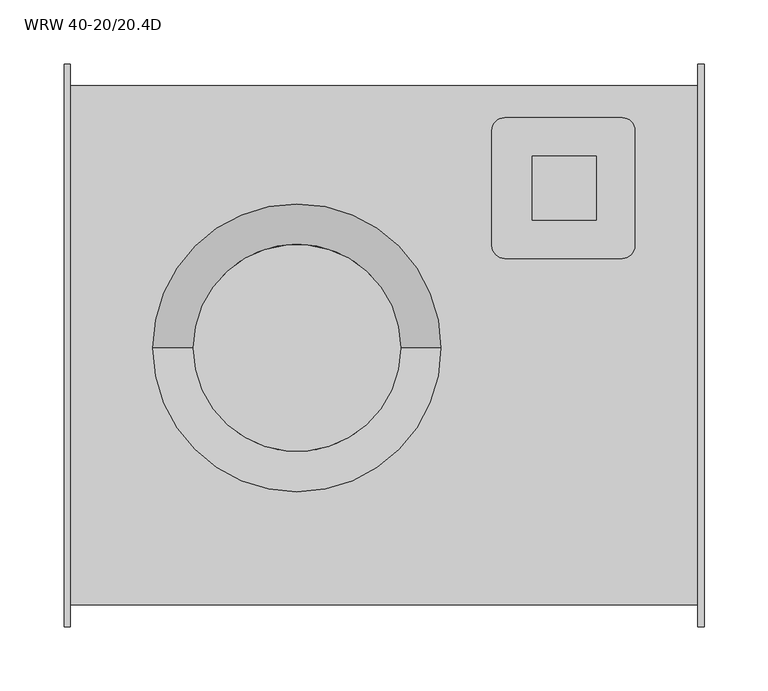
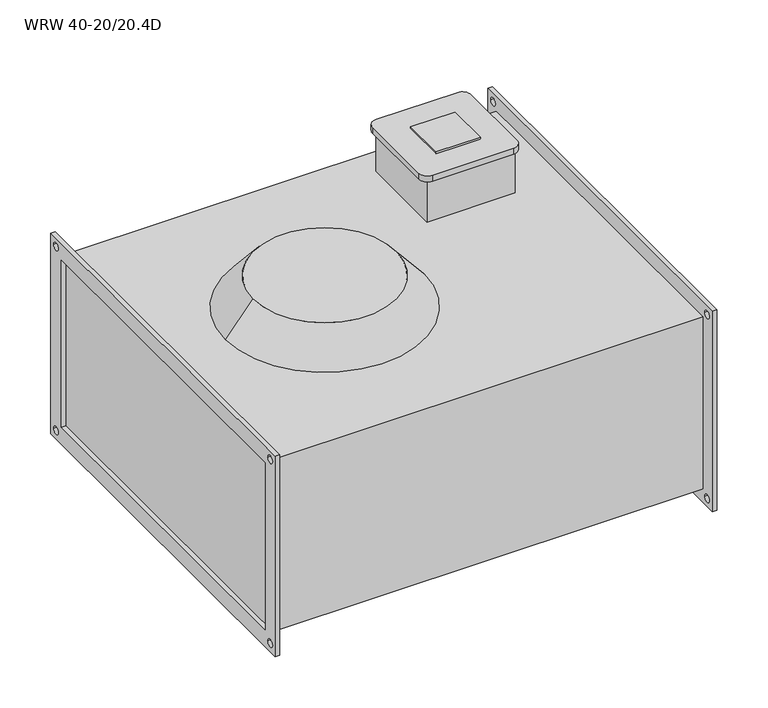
"""IFC4 building model written with IfcOpenShell, lengths in millimetres: proxy geometry, KORF_Вентилятор_WRW : WRW 40-20/20.4D."""

from ifc_helpers import new_model, si_unit, point, frame, frame_2d, origin, place, context, project, spatial, polyline, circle_curve, trimmed, segment, composite_curve, outline, extrude, source, transform, mapped, element, save
from ifc_brep_helpers import plane_surface, cylinder_surface, revolved_surface, advanced_brep


def wrw_40_20_20_4d_4732bad7(model_context):
    return source(origin(), model_context, "Body", "SolidModel", [
        extrude(outline(polyline([(366.0, 98.0), (366.0, 148.0), (416.0, 148.0), (416.0, 98.0), (366.0, 98.0)])), frame((0.0, 0.0, 161.0), z_axis=(0.0, 0.0, 1.0), x_axis=(1.0, 0.0, 0.0)), (0.0, 0.0, 1.0), 2.0),
        advanced_brep(
        [(436.0, 178.0, 161.0), (344.318163, 178.0, 161.0), (334.318163, 168.0, 161.0), (334.318163, 78.0, 161.0), (344.318163, 68.0, 161.0), (436.0, 68.0, 161.0), (446.0, 78.0, 161.0), (446.0, 168.0, 161.0), (436.0, 178.0, 154.0), (446.0, 168.0, 154.0), (446.0, 78.0, 154.0), (436.0, 68.0, 154.0), (344.318163, 68.0, 154.0), (334.318163, 78.0, 154.0), (334.318163, 168.0, 154.0), (344.318163, 178.0, 154.0), (441.0, 173.0, 154.0), (341.0, 173.0, 154.0), (341.0, 73.0, 154.0), (441.0, 73.0, 154.0), (441.0, 173.0, 103.0), (441.0, 73.0, 103.0), (341.0, 73.0, 103.0), (341.0, 173.0, 103.0)],
        [
            (0, 1),
            (1, 2, circle_curve(frame((344.318163, 168.0, 161.0), z_axis=(0.0, 0.0, 1.0), x_axis=(1.0, 0.0, 0.0)), 10.0)),
            (2, 3),
            (3, 4, circle_curve(frame((344.318163, 78.0, 161.0), z_axis=(0.0, 0.0, 1.0), x_axis=(1.0, 0.0, 0.0)), 10.0)),
            (4, 5),
            (5, 6, circle_curve(frame((436.0, 78.0, 161.0), z_axis=(0.0, 0.0, 1.0), x_axis=(1.0, 0.0, 0.0)), 10.0)),
            (6, 7),
            (7, 0, circle_curve(frame((436.0, 168.0, 161.0), z_axis=(0.0, 0.0, 1.0), x_axis=(1.0, 0.0, 0.0)), 10.0)),
            (8, 9, circle_curve(frame((436.0, 168.0, 154.0), z_axis=(0.0, 0.0, -1.0), x_axis=(1.0, 0.0, 0.0)), 10.0)),
            (9, 10),
            (10, 11, circle_curve(frame((436.0, 78.0, 154.0), z_axis=(0.0, 0.0, -1.0), x_axis=(1.0, 0.0, 0.0)), 10.0)),
            (11, 12),
            (12, 13, circle_curve(frame((344.318163, 78.0, 154.0), z_axis=(0.0, 0.0, -1.0), x_axis=(1.0, 0.0, 0.0)), 10.0)),
            (13, 14),
            (14, 15, circle_curve(frame((344.318163, 168.0, 154.0), z_axis=(0.0, 0.0, -1.0), x_axis=(1.0, 0.0, 0.0)), 10.0)),
            (15, 8),
            (16, 17),
            (17, 18),
            (18, 19),
            (19, 16),
            (0, 8),
            (15, 1),
            (14, 2),
            (13, 3),
            (12, 4),
            (11, 5),
            (10, 6),
            (9, 7),
            (20, 21),
            (21, 22),
            (22, 23),
            (23, 20),
            (23, 17),
            (16, 20),
            (22, 18),
            (21, 19),
        ],
        [
            plane_surface(frame((344.318163, 178.0, 161.0), z_axis=(0.0, 0.0, 1.0), x_axis=(-1.0, 0.0, 0.0))),
            plane_surface(frame((344.318163, 178.0, 154.0), z_axis=(0.0, 0.0, -1.0), x_axis=(1.0, 0.0, 0.0))),
            plane_surface(frame((436.0, 178.0, 161.0), z_axis=(0.0, 1.0, 0.0), x_axis=(0.0, 0.0, -1.0))),
            cylinder_surface(frame((344.318163, 168.0, 154.0), z_axis=(0.0, 0.0, 1.0), x_axis=(1.0, 0.0, 0.0)), 10.0),
            plane_surface(frame((334.318163, 168.0, 161.0), z_axis=(-1.0, 0.0, 0.0), x_axis=(0.0, 0.0, -1.0))),
            cylinder_surface(frame((344.318163, 78.0, 154.0), z_axis=(0.0, 0.0, 1.0), x_axis=(1.0, 0.0, 0.0)), 10.0),
            plane_surface(frame((344.318163, 68.0, 161.0), z_axis=(0.0, -1.0, 0.0), x_axis=(0.0, 0.0, -1.0))),
            cylinder_surface(frame((436.0, 78.0, 154.0), z_axis=(0.0, 0.0, 1.0), x_axis=(1.0, 0.0, 0.0)), 10.0),
            plane_surface(frame((446.0, 78.0, 161.0), z_axis=(1.0, 0.0, 0.0), x_axis=(0.0, 0.0, -1.0))),
            cylinder_surface(frame((436.0, 168.0, 154.0), z_axis=(0.0, 0.0, 1.0), x_axis=(1.0, 0.0, 0.0)), 10.0),
            plane_surface(frame((341.0, 173.0, 103.0), z_axis=(0.0, 0.0, -1.0), x_axis=(1.0, 0.0, 0.0))),
            plane_surface(frame((441.0, 173.0, 161.0), z_axis=(0.0, 1.0, 0.0), x_axis=(0.0, 0.0, -1.0))),
            plane_surface(frame((341.0, 173.0, 161.0), z_axis=(-1.0, 0.0, 0.0), x_axis=(0.0, 0.0, -1.0))),
            plane_surface(frame((341.0, 73.0, 161.0), z_axis=(0.0, -1.0, 0.0), x_axis=(0.0, 0.0, -1.0))),
            plane_surface(frame((441.0, 73.0, 161.0), z_axis=(1.0, 0.0, 0.0), x_axis=(0.0, 0.0, -1.0))),
        ],
        [
            (0, [[1, 2, 3, 4, 5, 6, 7, 8]]),
            (1, [[9, 10, 11, 12, 13, 14, 15, 16], [17, 18, 19, 20]]),
            (2, [[-1, 21, -16, 22]]),
            (3, [[-2, -22, -15, 23]]),
            (4, [[-3, -23, -14, 24]]),
            (5, [[-4, -24, -13, 25]]),
            (6, [[-5, -25, -12, 26]]),
            (7, [[-6, -26, -11, 27]]),
            (8, [[-7, -27, -10, 28]]),
            (9, [[-8, -28, -9, -21]]),
            (10, [[29, 30, 31, 32]]),
            (11, [[-32, 33, -17, 34]]),
            (12, [[-31, 35, -18, -33]]),
            (13, [[-30, 36, -19, -35]]),
            (14, [[-29, -34, -20, -36]]),
        ],
    ),
        advanced_brep(
        [(69.5, -2.0, 103.0), (294.5, -2.0, 103.0), (101.0, -2.0, 140.5), (263.0, -2.0, 140.5)],
        [
            (0, 1, circle_curve(frame((182.0, -2.0, 103.0), z_axis=(0.0, 0.0, -1.0), x_axis=(-1.0, 0.0, 0.0)), 112.5)),
            (1, 0, circle_curve(frame((182.0, -2.0, 103.0), z_axis=(0.0, 0.0, -1.0), x_axis=(1.0, 0.0, 0.0)), 112.5)),
            (2, 3, circle_curve(frame((182.0, -2.0, 140.5), z_axis=(0.0, 0.0, 1.0), x_axis=(1.0, 0.0, 0.0)), 81.0)),
            (3, 2, circle_curve(frame((182.0, -2.0, 140.5), z_axis=(0.0, 0.0, 1.0), x_axis=(-1.0, 0.0, 0.0)), 81.0)),
            (2, 0),
            (1, 3),
        ],
        [
            plane_surface(frame((182.0, -2.0, 103.0), z_axis=(0.0, 0.0, -1.0), x_axis=(0.0, -1.0, 0.0))),
            plane_surface(frame((182.0, -2.0, 140.5), z_axis=(0.0, 0.0, 1.0), x_axis=(0.0, -1.0, 0.0))),
            revolved_surface(polyline([(101.00000000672, -2.0, 140.5), (69.5, -2.0, 103.0)]), (182.0, -2.0, 236.9285714), (0.0, 0.0, -1.0)),
            revolved_surface(polyline([(262.99999999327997, -2.0, 140.5), (294.5, -2.0, 103.0)]), (182.0, -2.0, 236.9285714), (0.0, 0.0, -1.0)),
        ],
        [
            (0, [[1, 2]]),
            (1, [[3, 4]]),
            (2, [[-3, 5, -2, 6]]),
            (3, [[-4, -6, -1, -5]]),
        ],
    ),
        extrude(outline(polyline([(-220.0, 120.0), (220.0, 120.0), (220.0, -120.0), (-220.0, -120.0), (-220.0, 120.0)]), holes=[polyline([(-200.0, 100.0), (-200.0, -100.0), (200.0, -100.0), (200.0, 100.0), (-200.0, 100.0)]), composite_curve([segment(trimmed(circle_curve(frame_2d((210.0, 110.0)), 4.5), [point((205.5, 110.0))], [point((214.5, 110.0))], True, "CARTESIAN"), True, "CONTINUOUS"), segment(trimmed(circle_curve(frame_2d((210.0, 110.0)), 4.5), [point((214.5, 110.0))], [point((205.5, 110.0))], True, "CARTESIAN"), True, "CONTINUOUS")], self_intersect=False), composite_curve([segment(trimmed(circle_curve(frame_2d((-210.0, 110.0)), 4.5), [point((-214.5, 110.0))], [point((-205.5, 110.0))], True, "CARTESIAN"), True, "CONTINUOUS"), segment(trimmed(circle_curve(frame_2d((-210.0, 110.0)), 4.5), [point((-205.5, 110.0))], [point((-214.5, 110.0))], True, "CARTESIAN"), True, "CONTINUOUS")], self_intersect=False), composite_curve([segment(trimmed(circle_curve(frame_2d((-210.0, -110.0)), 4.5), [point((-214.5, -110.0))], [point((-205.5, -110.0))], True, "CARTESIAN"), True, "CONTINUOUS"), segment(trimmed(circle_curve(frame_2d((-210.0, -110.0)), 4.5), [point((-205.5, -110.0))], [point((-214.5, -110.0))], True, "CARTESIAN"), True, "CONTINUOUS")], self_intersect=False), composite_curve([segment(trimmed(circle_curve(frame_2d((210.0, -110.0)), 4.5), [point((205.5, -110.0))], [point((214.5, -110.0))], True, "CARTESIAN"), True, "CONTINUOUS"), segment(trimmed(circle_curve(frame_2d((210.0, -110.0)), 4.5), [point((214.5, -110.0))], [point((205.5, -110.0))], True, "CARTESIAN"), True, "CONTINUOUS")], self_intersect=False)]), frame((495.0, 0.0, 0.0), z_axis=(1.0, 0.0, 0.0), x_axis=(0.0, 1.0, 0.0)), (0.0, 0.0, 1.0), 5.0),
        extrude(outline(polyline([(-220.0, 120.0), (220.0, 120.0), (220.0, -120.0), (-220.0, -120.0), (-220.0, 120.0)]), holes=[polyline([(-200.0, 100.0), (-200.0, -100.0), (200.0, -100.0), (200.0, 100.0), (-200.0, 100.0)]), composite_curve([segment(trimmed(circle_curve(frame_2d((210.0, 110.0)), 4.5), [point((205.5, 110.0))], [point((214.5, 110.0))], True, "CARTESIAN"), True, "CONTINUOUS"), segment(trimmed(circle_curve(frame_2d((210.0, 110.0)), 4.5), [point((214.5, 110.0))], [point((205.5, 110.0))], True, "CARTESIAN"), True, "CONTINUOUS")], self_intersect=False), composite_curve([segment(trimmed(circle_curve(frame_2d((-210.0, 110.0)), 4.5), [point((-214.5, 110.0))], [point((-205.5, 110.0))], True, "CARTESIAN"), True, "CONTINUOUS"), segment(trimmed(circle_curve(frame_2d((-210.0, 110.0)), 4.5), [point((-205.5, 110.0))], [point((-214.5, 110.0))], True, "CARTESIAN"), True, "CONTINUOUS")], self_intersect=False), composite_curve([segment(trimmed(circle_curve(frame_2d((-210.0, -110.0)), 4.5), [point((-214.5, -110.0))], [point((-205.5, -110.0))], True, "CARTESIAN"), True, "CONTINUOUS"), segment(trimmed(circle_curve(frame_2d((-210.0, -110.0)), 4.5), [point((-205.5, -110.0))], [point((-214.5, -110.0))], True, "CARTESIAN"), True, "CONTINUOUS")], self_intersect=False), composite_curve([segment(trimmed(circle_curve(frame_2d((210.0, -110.0)), 4.5), [point((205.5, -110.0))], [point((214.5, -110.0))], True, "CARTESIAN"), True, "CONTINUOUS"), segment(trimmed(circle_curve(frame_2d((210.0, -110.0)), 4.5), [point((214.5, -110.0))], [point((205.5, -110.0))], True, "CARTESIAN"), True, "CONTINUOUS")], self_intersect=False)]), frame((0.0, 0.0, 0.0), z_axis=(1.0, 0.0, 0.0), x_axis=(0.0, 1.0, 0.0)), (0.0, 0.0, 1.0), 5.0),
        extrude(outline(polyline([(495.0, 203.0), (495.0, -203.0), (5.0, -203.0), (5.0, 203.0), (495.0, 203.0)])), frame((0.0, 0.0, -103.0), z_axis=(0.0, 0.0, 1.0), x_axis=(1.0, 0.0, 0.0)), (0.0, 0.0, 1.0), 206.0),
    ])


if __name__ == "__main__":
    model = new_model("IFC4")
    model_context = context("Model", 3, world=origin())
    ifc_project = project(units=[si_unit("LENGTHUNIT", "METRE", prefix="MILLI")], contexts=[model_context])
    site = spatial("IfcSite", under=ifc_project)
    building = spatial("IfcBuilding", under=site)
    placement = place(None, origin())
    wrw_40_20_20_4d_shape = wrw_40_20_20_4d_4732bad7(model_context)
    element("IfcBuildingElementProxy", 1, Name="KORF_Вентилятор_WRW : WRW 40-20/20.4D", ObjectType="KORF_Вентилятор_WRW : WRW 40-20/20.4D", at=placement, inside=building, context=model_context, shape_type="MappedRepresentation", body=[
        mapped(wrw_40_20_20_4d_shape, transform((0.0, 0.0, 0.0), x_axis=(1.0, 0.0, 0.0), y_axis=(0.0, 1.0, 0.0), z_axis=(0.0, 0.0, 1.0))),
    ])
    save(model, "model.ifc")
